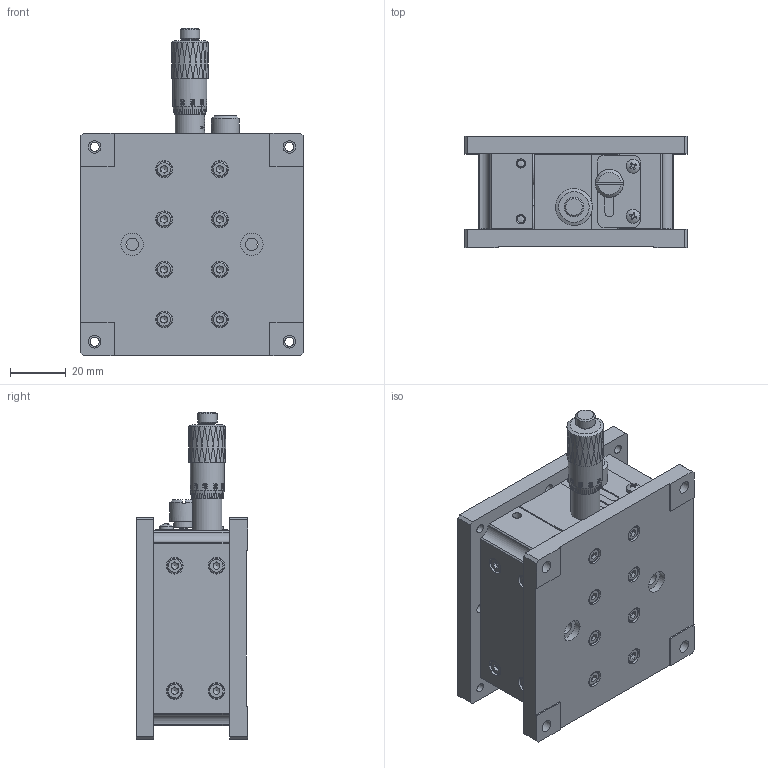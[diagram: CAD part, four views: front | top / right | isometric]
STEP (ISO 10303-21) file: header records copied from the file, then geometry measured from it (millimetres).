
FILE_DESCRIPTION (( 'STEP AP203' ), '1' );
FILE_NAME ('BLEZ80.STEP', '2024-07-02T03:25:49', ( 'Windows User' ), ( 'P R C' ), 'SwSTEP 2.0', 'SolidWorks 2024', '' );
FILE_SCHEMA (( 'CONFIG_CONTROL_DESIGN' ));
Products named in the file (1): BLEZ80
Bounding box: 80 x 40 x 117.63 mm (x, y, z)
Volume: 185548.5 mm3; surface area: 95091.4 mm2
Topology: 48 solids, 48 shells, 1903 faces, 4570 edges, 2925 vertices
Faces by surface type: plane 843, bspline 395, cylinder 392, cone 230, torus 40, sphere 3
Full cylindrical faces by diameter (mm): 1.6 x1, 2.05 x4, 2.5 x32, 2.55 x16, 2.95 x9, 3 x24, 3.2 x1, 3.3 x22, 3.4 x33, 4.4 x16, 4.5 x6, 5 x5, 5.5 x27, 5.6 x1, 5.8 x7, 6 x26, 7 x3, 7.2 x1, 8 x2, 8.1 x2, 8.5 x1, 9.5 x2, 10 x1, 10.5 x1, 12.2 x1
Entity records: 83496 total; most frequent: CARTESIAN_POINT 45092, ORIENTED_EDGE 7988, DIRECTION 6513, EDGE_CURVE 3994, VERTEX_POINT 2771, EDGE_LOOP 2639, AXIS2_PLACEMENT_3D 2498, FACE_OUTER_BOUND 2156
